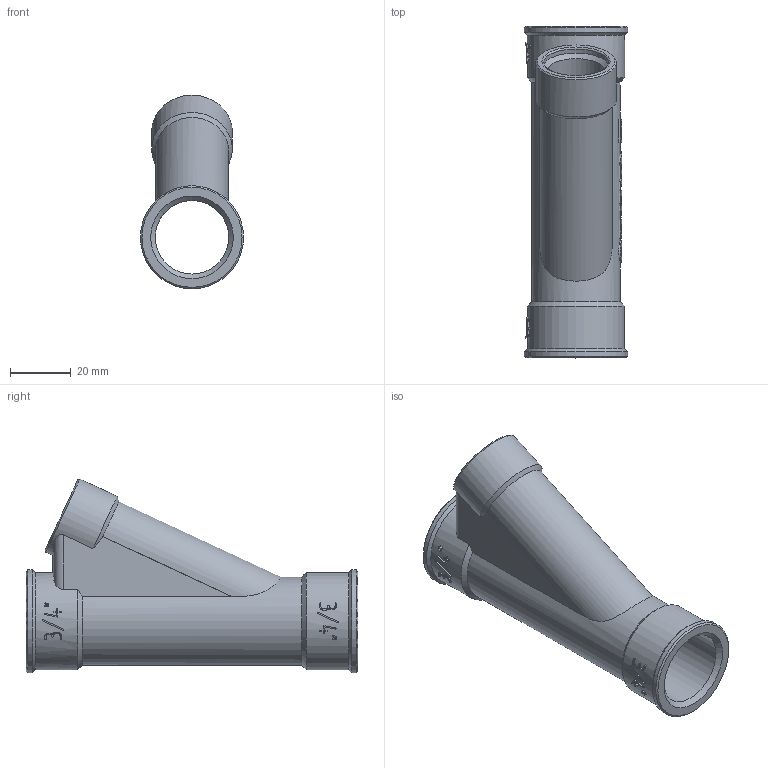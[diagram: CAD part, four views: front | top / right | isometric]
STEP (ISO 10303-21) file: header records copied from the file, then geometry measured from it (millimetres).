
FILE_DESCRIPTION(('STEP AP203'), '1');
FILE_NAME('ÂÐ.752246.002 - VTr.136.N.0504 - Ôèò. ðåçüá. òðîé. êîñ', '2024-06-26T12:45:54', ('Boss'), (''), 'C3D Converter', 'C3D Toolkit', '');
FILE_SCHEMA(('CONFIG_CONTROL_DESIGN'));
Length unit declared in the file: millimetre
Products named in the file (1): ВР.752246.002
Bounding box: 33.9 x 109 x 63.66 mm (x, y, z)
Volume: 40748.2 mm3; surface area: 25204.8 mm2
Topology: 1 solids, 1 shells, 322 faces, 892 edges, 592 vertices
Faces by surface type: extrusion 138, plane 137, cylinder 33, cone 11, bspline 2, torus 1
Full cylindrical faces by diameter (mm): 18.632 x1, 21.4 x1, 24.118 x1, 26.5 x1, 29 x1, 31.9 x2, 33.9 x2
Entity records: 14626 total; most frequent: CARTESIAN_POINT 7195, ORIENTED_EDGE 1746, DIRECTION 1096, EDGE_CURVE 873, VERTEX_POINT 592, VECTOR 512, B_SPLINE_CURVE_WITH_KNOTS 430, LINE 374
